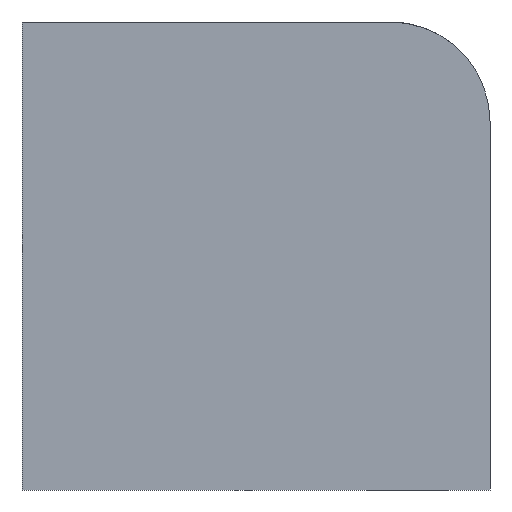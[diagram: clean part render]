
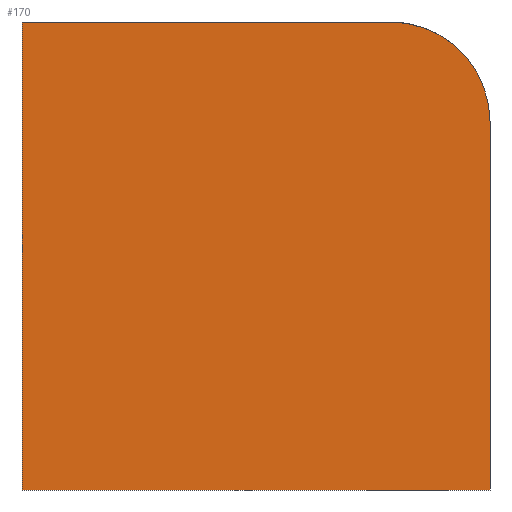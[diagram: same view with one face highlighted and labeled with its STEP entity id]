
A CAD part, front view. The second image highlights one B-rep face of the part: STEP entity #170.
In plain terms, the highlighted planar face has unit normal (0, -1, 0).
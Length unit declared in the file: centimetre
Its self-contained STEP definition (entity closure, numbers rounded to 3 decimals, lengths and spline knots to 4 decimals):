
#21 = CARTESIAN_POINT ( 'NONE',  ( 0., 0., 1000. ) ) ;
#45 = LINE ( 'NONE', #627, #435 ) ;
#92 = CARTESIAN_POINT ( 'NONE',  ( 0., 0., 1000. ) ) ;
#137 = DIRECTION ( 'NONE',  ( 0., 0., -1. ) ) ;
#141 = CARTESIAN_POINT ( 'NONE',  ( 786.4038, 0., 1000. ) ) ;
#149 = ORIENTED_EDGE ( 'NONE', *, *, #522, .T. ) ;
#160 = EDGE_CURVE ( 'NONE', #734, #445, #45, .T. ) ;
#167 = DIRECTION ( 'NONE',  ( 0., -1., 0. ) ) ;
#170 = ADVANCED_FACE ( 'NONE', ( #237 ), #299, .F. ) ;
#171 = AXIS2_PLACEMENT_3D ( 'NONE', #496, #167, #821 ) ;
#226 = DIRECTION ( 'NONE',  ( 0., 1., 0. ) ) ;
#237 = FACE_OUTER_BOUND ( 'NONE', #300, .T. ) ;
#240 = CIRCLE ( 'NONE', #171, 213.5962 ) ;
#242 = AXIS2_PLACEMENT_3D ( 'NONE', #92, #226, #488 ) ;
#266 = VERTEX_POINT ( 'NONE', #456 ) ;
#269 = CARTESIAN_POINT ( 'NONE',  ( 0., 0., 1000. ) ) ;
#279 = LINE ( 'NONE', #476, #288 ) ;
#288 = VECTOR ( 'NONE', #612, 100. ) ;
#299 = PLANE ( 'NONE',  #242 ) ;
#300 = EDGE_LOOP ( 'NONE', ( #831, #149, #471, #650, #574 ) ) ;
#368 = LINE ( 'NONE', #697, #852 ) ;
#435 = VECTOR ( 'NONE', #822, 100. ) ;
#445 = VERTEX_POINT ( 'NONE', #141 ) ;
#456 = CARTESIAN_POINT ( 'NONE',  ( 0., 0., 0. ) ) ;
#471 = ORIENTED_EDGE ( 'NONE', *, *, #160, .F. ) ;
#476 = CARTESIAN_POINT ( 'NONE',  ( 0., 0., 0. ) ) ;
#483 = EDGE_CURVE ( 'NONE', #266, #669, #279, .T. ) ;
#487 = VECTOR ( 'NONE', #137, 100. ) ;
#488 = DIRECTION ( 'NONE',  ( 0., 0., 1. ) ) ;
#496 = CARTESIAN_POINT ( 'NONE',  ( 786.4038, 0., 786.4038 ) ) ;
#503 = EDGE_CURVE ( 'NONE', #635, #669, #368, .T. ) ;
#522 = EDGE_CURVE ( 'NONE', #635, #445, #240, .T. ) ;
#574 = ORIENTED_EDGE ( 'NONE', *, *, #483, .T. ) ;
#612 = DIRECTION ( 'NONE',  ( 1., 0., 0. ) ) ;
#627 = CARTESIAN_POINT ( 'NONE',  ( 0., 0., 1000. ) ) ;
#635 = VERTEX_POINT ( 'NONE', #828 ) ;
#638 = DIRECTION ( 'NONE',  ( 0., 0., -1. ) ) ;
#650 = ORIENTED_EDGE ( 'NONE', *, *, #678, .T. ) ;
#669 = VERTEX_POINT ( 'NONE', #736 ) ;
#678 = EDGE_CURVE ( 'NONE', #734, #266, #749, .T. ) ;
#697 = CARTESIAN_POINT ( 'NONE',  ( 1000., 0., 1000. ) ) ;
#734 = VERTEX_POINT ( 'NONE', #269 ) ;
#736 = CARTESIAN_POINT ( 'NONE',  ( 1000., 0., 0. ) ) ;
#749 = LINE ( 'NONE', #21, #487 ) ;
#821 = DIRECTION ( 'NONE',  ( 0., 0., 1. ) ) ;
#822 = DIRECTION ( 'NONE',  ( 1., 0., 0. ) ) ;
#828 = CARTESIAN_POINT ( 'NONE',  ( 1000., 0., 786.4038 ) ) ;
#831 = ORIENTED_EDGE ( 'NONE', *, *, #503, .F. ) ;
#852 = VECTOR ( 'NONE', #638, 100. ) ;
